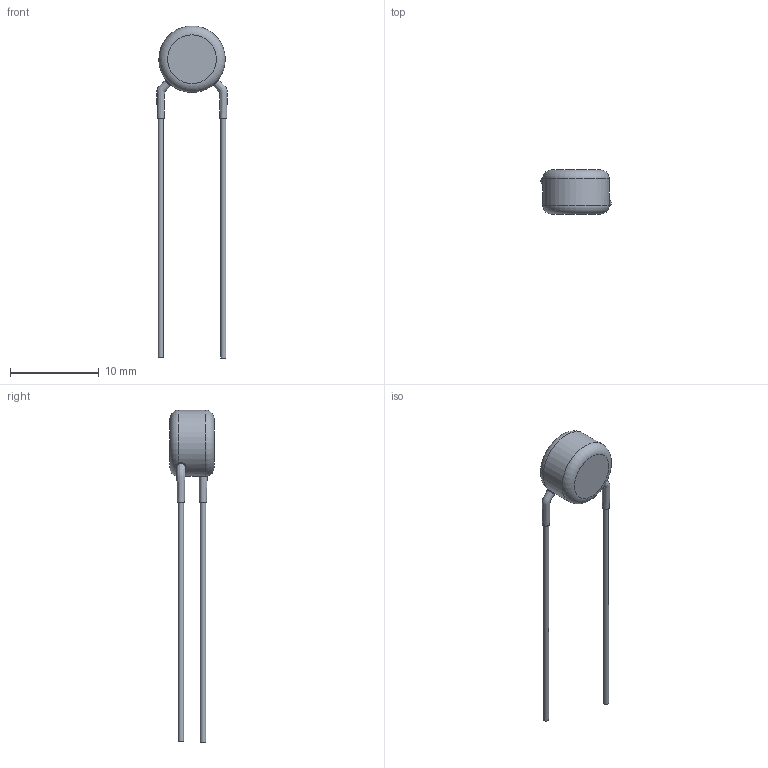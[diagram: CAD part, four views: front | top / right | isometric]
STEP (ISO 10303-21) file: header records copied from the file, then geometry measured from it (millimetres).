
FILE_DESCRIPTION(/* description */ (''),/* implementation_level */ '2;1');
FILE_NAME(/* name */ 'I:\Marketing\M6t1\3D-Models\Zchng-Werk-3\Upload for homepage\BCC neu\AY2 Straight\Step\AY2100K29U2JS63L7.stp',/* time_stamp */ '2023-07-13T14:04:46+02:00',/* author */ ('truediger'),/* organization */ (''),/* preprocessor_version */ 'ST-DEVELOPER v18',/* originating_system */ 'Autodesk Inventor 2020',/* authorisation */ '');
FILE_SCHEMA (('AUTOMOTIVE_DESIGN { 1 0 10303 214 3 1 1 }'));
Length unit declared in the file: millimetre
Products named in the file (1): Bauteil2
Bounding box: 7.95 x 5 x 37.5 mm (x, y, z)
Volume: 232.1 mm3; surface area: 310.8 mm2
Topology: 1 solids, 1 shells, 19 faces, 43 edges, 28 vertices
Faces by surface type: bspline 8, plane 6, cylinder 3, torus 2
Full cylindrical faces by diameter (mm): 0.6 x2, 7.5 x1
Entity records: 1738 total; most frequent: CARTESIAN_POINT 1277, ORIENTED_EDGE 86, DIRECTION 75, EDGE_CURVE 43, AXIS2_PLACEMENT_3D 36, VERTEX_POINT 28, CIRCLE 24, EDGE_LOOP 21
